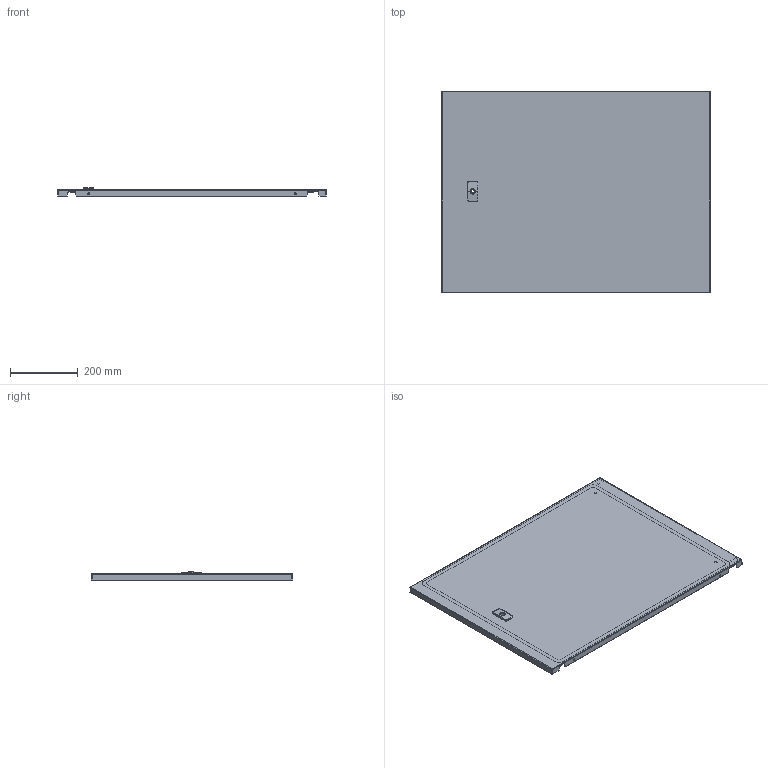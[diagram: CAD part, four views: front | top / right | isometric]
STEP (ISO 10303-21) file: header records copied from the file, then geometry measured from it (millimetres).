
FILE_DESCRIPTION (( 'STEP AP203' ), '1' );
FILE_NAME ('EUPD080060.STEP', '2015-04-22T13:41:57', ( 'Admin' ), ( '' ), 'SwSTEP 2.0', 'SolidWorks 2014', '' );
FILE_SCHEMA (( 'CONFIG_CONTROL_DESIGN' ));
Length unit declared in the file: millimetre
Products named in the file (3): EUPD080060; AR_Porte cieche_EUPD_Enux_0800x0600; chiusura_pm_modificato
Assembly tree (2 placements, depth 2):
  EUPD080060
    AR_Porte cieche_EUPD_Enux_0800x0600
    chiusura_pm_modificato
Bounding box: 795 x 596 x 24 mm (x, y, z)
Volume: 934908.2 mm3; surface area: 1064797.7 mm2
Topology: 2 solids, 2 shells, 194 faces, 509 edges, 321 vertices
Faces by surface type: cylinder 90, plane 80, sphere 8, cone 6, torus 6, bspline 4
Entity records: 6674 total; most frequent: CARTESIAN_POINT 1462, DIRECTION 1083, ORIENTED_EDGE 1002, EDGE_CURVE 501, AXIS2_PLACEMENT_3D 400, VERTEX_POINT 321, LINE 283, VECTOR 283
